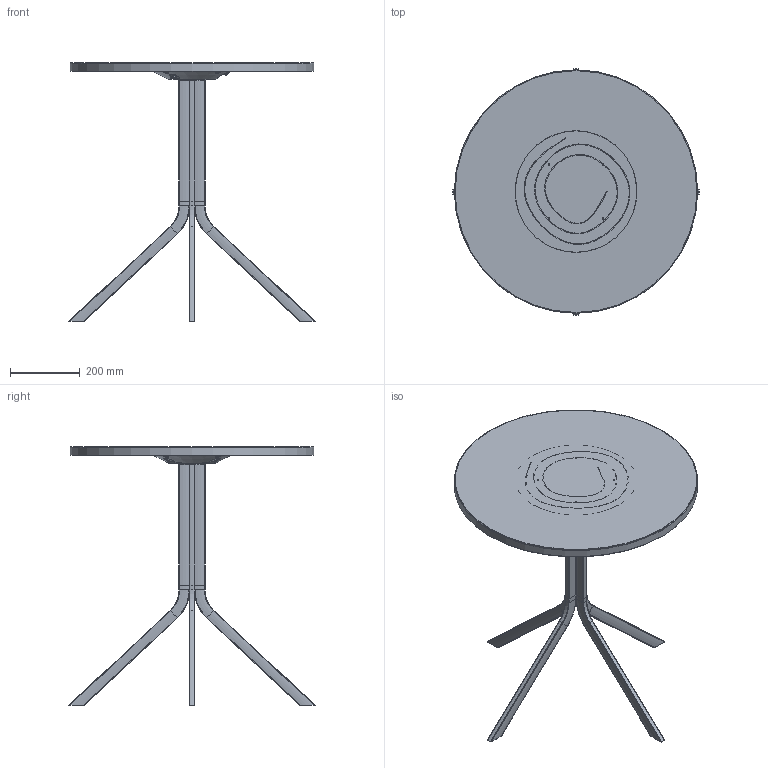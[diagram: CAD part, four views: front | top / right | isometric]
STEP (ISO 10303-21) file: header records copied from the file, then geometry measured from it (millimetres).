
FILE_DESCRIPTION(('STEP AP203'),'1');
FILE_NAME('OKTV20FXX + OKTO10FXX.stp','2024-07-01T12:25:49',(' '),(' '),'Spatial InterOp 3D',' ',' ');
FILE_SCHEMA(('CONFIG_CONTROL_DESIGN'));
Length unit declared in the file: millimetre
Products named in the file (26): OKTO10FXX; Parte MAF 3; OKTO00P90 - PER LAMIERA; 80UT15HR22FXX; Assieme MAF 2; MECCANISMO; 21; 20; 19; 18; 17; 16; 15; 14; 13; 12; 11; 10; 2; 1; 20OKGT10F00; ASSEM1; _OKTV20FXX; 90OKPS10F00
Assembly tree (28 placements, depth 4):
  Assieme MAF 2
    OKTO10FXX
      Parte MAF 3
      OKTO00P90 - PER LAMIERA
      80UT15HR22FXX
    MECCANISMO
      21
      20
      19
      18
      17
      16
      15
      14
      13
      12
      11
      10
      2
      1
    _OKTV20FXX
      20OKGT10F00  x4
        ASSEM1
        (unnamed)
        20OKGT10F00
      90OKPS10F00
Bounding box: 708.17 x 708.17 x 743.71 mm (x, y, z)
Volume: 2690619.4 mm3; surface area: 1880655.5 mm2
Topology: 22 solids, 22 shells, 3585 faces, 8654 edges, 5110 vertices
Faces by surface type: plane 1232, bspline 1005, cylinder 708, torus 288, cone 155, sphere 96, extrusion 80, offset 13, revolution 8
Full cylindrical faces by diameter (mm): 4.2 x4, 4.5 x1, 4.8 x1, 5.12 x1, 5.5 x3, 5.6 x2, 5.601 x1, 6 x4, 6.8 x2, 8 x19, 8.1 x2, 8.5 x2, 9 x1, 9.6 x1, 10 x1, 11 x3, 14 x3, 15.532 x2, 20 x1, 69.6 x1, 350 x1, 696 x1, 700 x1
Entity records: 232521 total; most frequent: CARTESIAN_POINT 160626, ORIENTED_EDGE 15564, DIRECTION 12791, EDGE_CURVE 7782, AXIS2_PLACEMENT_3D 4814, VERTEX_POINT 4790, EDGE_LOOP 3785, FACE_OUTER_BOUND 3501
